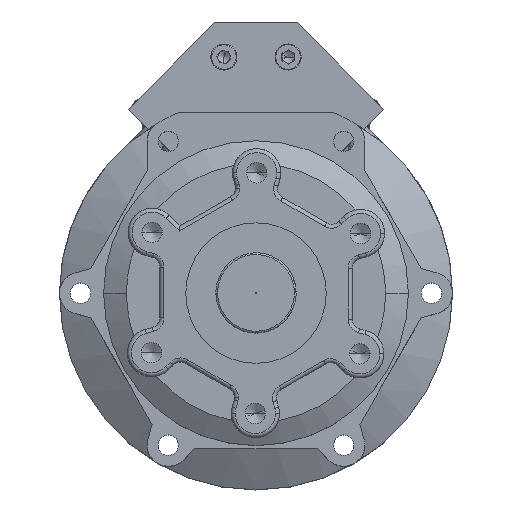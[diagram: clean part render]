
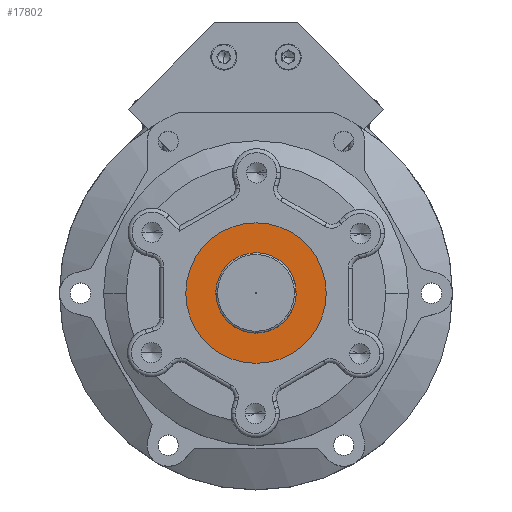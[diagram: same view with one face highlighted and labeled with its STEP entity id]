
A CAD part, top view. The second image highlights one B-rep face of the part: STEP entity #17802.
In plain terms, the highlighted planar face has unit normal (0, 0, 1).
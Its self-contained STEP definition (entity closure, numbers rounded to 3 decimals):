
#1206 = AXIS2_PLACEMENT_3D ( 'NONE', #13977, #27933, #10140 ) ;
#1770 = CARTESIAN_POINT ( 'NONE',  ( 0., 0., 89. ) ) ;
#1795 = CARTESIAN_POINT ( 'NONE',  ( 20., 0., 89. ) ) ;
#2847 = CARTESIAN_POINT ( 'NONE',  ( -35., 0., 89. ) ) ;
#3479 = EDGE_CURVE ( 'NONE', #6770, #16868, #20425, .T. ) ;
#4822 = AXIS2_PLACEMENT_3D ( 'NONE', #5950, #22167, #28939 ) ;
#5327 = AXIS2_PLACEMENT_3D ( 'NONE', #1770, #11395, #29732 ) ;
#5950 = CARTESIAN_POINT ( 'NONE',  ( 0., 0., 89. ) ) ;
#6770 = VERTEX_POINT ( 'NONE', #16980 ) ;
#6959 = EDGE_LOOP ( 'NONE', ( #26548, #29900 ) ) ;
#9631 = ORIENTED_EDGE ( 'NONE', *, *, #22182, .F. ) ;
#10140 = DIRECTION ( 'NONE',  ( 1., 0., 0. ) ) ;
#10257 = FACE_BOUND ( 'NONE', #20533, .T. ) ;
#11222 = DIRECTION ( 'NONE',  ( 0., 0., 1. ) ) ;
#11395 = DIRECTION ( 'NONE',  ( 0., 0., 1. ) ) ;
#12064 = EDGE_CURVE ( 'NONE', #16868, #6770, #18090, .T. ) ;
#13707 = CARTESIAN_POINT ( 'NONE',  ( 0., 0., 89. ) ) ;
#13977 = CARTESIAN_POINT ( 'NONE',  ( 0., 0., 89. ) ) ;
#16060 = DIRECTION ( 'NONE',  ( 1., 0., 0. ) ) ;
#16868 = VERTEX_POINT ( 'NONE', #2847 ) ;
#16980 = CARTESIAN_POINT ( 'NONE',  ( 35., 0., 89. ) ) ;
#17298 = AXIS2_PLACEMENT_3D ( 'NONE', #20762, #11222, #20569 ) ;
#17802 = ADVANCED_FACE ( 'NONE', ( #28729, #10257 ), #25540, .T. ) ;
#18090 = CIRCLE ( 'NONE', #4822, 35. ) ;
#19504 = EDGE_CURVE ( 'NONE', #30000, #21694, #20799, .T. ) ;
#20425 = CIRCLE ( 'NONE', #17298, 35. ) ;
#20533 = EDGE_LOOP ( 'NONE', ( #9631, #27118 ) ) ;
#20569 = DIRECTION ( 'NONE',  ( 1., 0., 0. ) ) ;
#20762 = CARTESIAN_POINT ( 'NONE',  ( 0., 0., 89. ) ) ;
#20799 = CIRCLE ( 'NONE', #5327, 20. ) ;
#21694 = VERTEX_POINT ( 'NONE', #1795 ) ;
#22167 = DIRECTION ( 'NONE',  ( 0., 0., 1. ) ) ;
#22182 = EDGE_CURVE ( 'NONE', #21694, #30000, #28777, .T. ) ;
#25540 = PLANE ( 'NONE',  #1206 ) ;
#26548 = ORIENTED_EDGE ( 'NONE', *, *, #12064, .T. ) ;
#27118 = ORIENTED_EDGE ( 'NONE', *, *, #19504, .F. ) ;
#27933 = DIRECTION ( 'NONE',  ( 0., 0., 1. ) ) ;
#28729 = FACE_OUTER_BOUND ( 'NONE', #6959, .T. ) ;
#28777 = CIRCLE ( 'NONE', #30056, 20. ) ;
#28939 = DIRECTION ( 'NONE',  ( 1., 0., 0. ) ) ;
#29732 = DIRECTION ( 'NONE',  ( 1., 0., 0. ) ) ;
#29900 = ORIENTED_EDGE ( 'NONE', *, *, #3479, .T. ) ;
#29936 = CARTESIAN_POINT ( 'NONE',  ( -20., 0., 89. ) ) ;
#29937 = DIRECTION ( 'NONE',  ( 0., 0., 1. ) ) ;
#30000 = VERTEX_POINT ( 'NONE', #29936 ) ;
#30056 = AXIS2_PLACEMENT_3D ( 'NONE', #13707, #29937, #16060 ) ;
